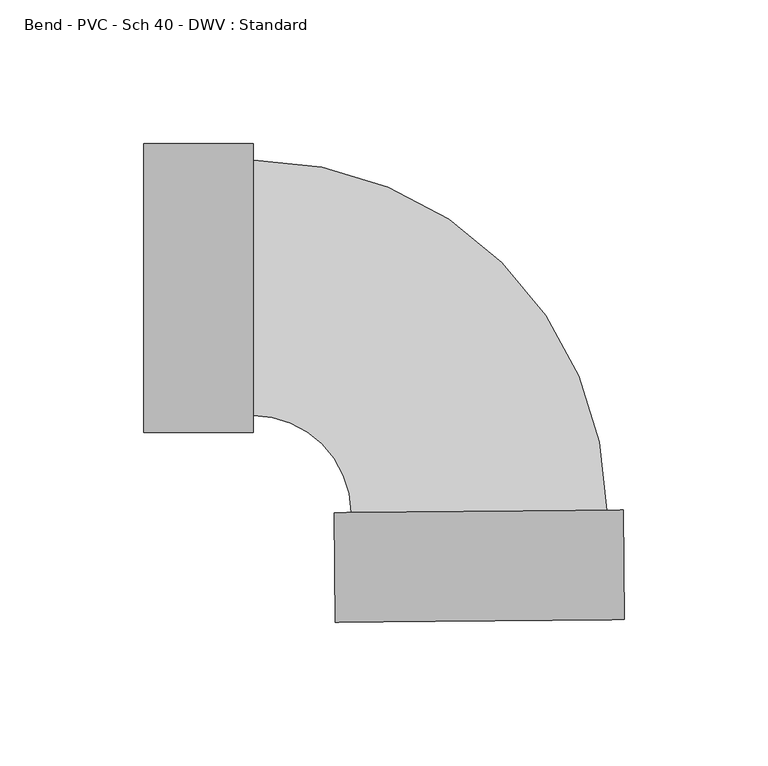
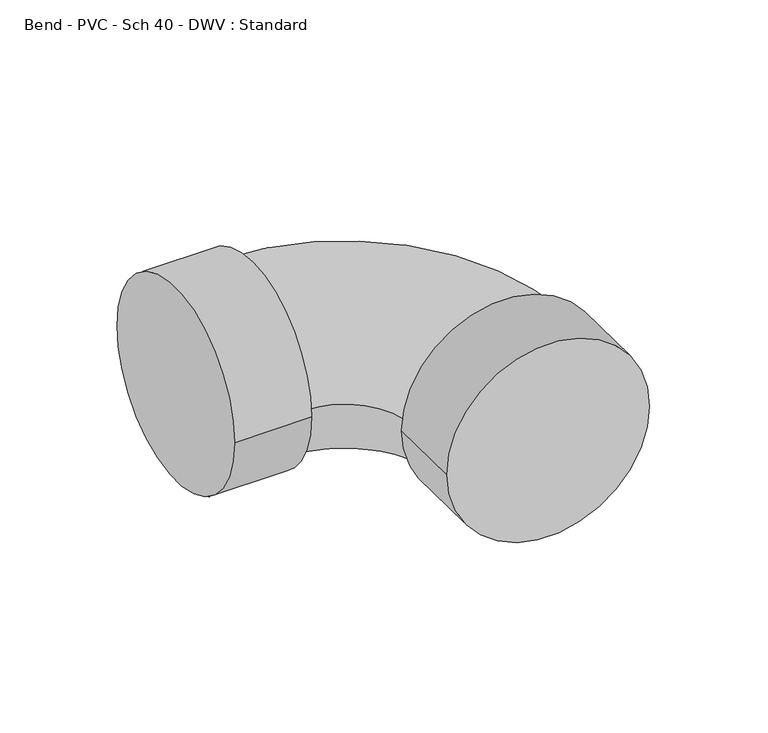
"""IFC4 building model written with IfcOpenShell, lengths in millimetres: pipe fitting geometry, Bend - PVC - Sch 40 - DWV : Standard."""

from ifc_helpers import new_model, si_unit, point, frame, origin, place, context, project, spatial, circle_curve, ellipse_curve, trimmed, source, transform, mapped, element, save
from ifc_brep_helpers import plane_surface, cylinder_surface, revolved_surface, advanced_brep


def bend_pvc_sch_40_dwv_standard_ddf7f1b2(model_context):
    return source(origin(), model_context, "Body", "AdvancedBrep", [
        advanced_brep(
        [(-115.9002, 50.2666, 0.0), (-115.9002, -50.2666, 0.0), (-77.8002, 50.2666, 0.0), (-77.8002, -50.2666, 0.0), (-77.8002, 44.45, 0.0), (-77.8002, -44.45, 0.0), (-43.7345164, -78.2046398, 0.0), (45.1617438, -77.3892145, 0.0), (50.9780991, -77.3358624, 0.0), (-49.5508717, -78.257992, 0.0), (51.3275671, -115.4342596, 0.0), (-49.2014037, -116.3563892, 0.0)],
        [
            (0, 1, circle_curve(frame((-115.9002, 0.0, 0.0), z_axis=(-1.0, 0.0, 0.0), x_axis=(0.0, -1.0, 0.0)), 50.2666)),
            (1, 0, circle_curve(frame((-115.9002, 0.0, 0.0), z_axis=(-1.0, 0.0, 0.0), x_axis=(0.0, -1.0, 0.0)), 50.2666)),
            (2, 3, circle_curve(frame((-77.8002, 0.0, 0.0), z_axis=(1.0, 0.0, 0.0), x_axis=(0.0, -1.0, 0.0)), 50.2666)),
            (3, 2, circle_curve(frame((-77.8002, 0.0, 0.0), z_axis=(1.0, 0.0, 0.0), x_axis=(0.0, -1.0, 0.0)), 50.2666)),
            (4, 5, circle_curve(frame((-77.8002, 0.0, 0.0), z_axis=(-1.0, 0.0, 0.0), x_axis=(0.0, -1.0, 0.0)), 44.45)),
            (5, 4, circle_curve(frame((-77.8002, 0.0, 0.0), z_axis=(-1.0, 0.0, 0.0), x_axis=(0.0, -1.0, 0.0)), 44.45)),
            (1, 3),
            (2, 0),
            (6, 7, circle_curve(frame((0.7136137, -77.7969272, 0.0), z_axis=(-0.009172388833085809, 0.9999579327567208, 0.0), x_axis=(-0.9999579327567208, -0.009172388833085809, 0.0)), 44.45)),
            (7, 4, circle_curve(frame((-77.8002, -78.5171167, 0.0), z_axis=(0.0, 0.0, 1.0), x_axis=(0.0, 1.0, 0.0)), 122.9671167)),
            (5, 6, circle_curve(frame((-77.8002, -78.5171167, 0.0), z_axis=(0.0, 0.0, -1.0), x_axis=(0.0, 1.0, 0.0)), 34.0671167)),
            (7, 6, circle_curve(frame((0.7136137, -77.7969272, 0.0), z_axis=(-0.009172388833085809, 0.9999579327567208, 0.0), x_axis=(-0.9999579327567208, -0.009172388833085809, 0.0)), 44.45)),
            (8, 9, circle_curve(frame((0.7136137, -77.7969272, 0.0), z_axis=(-0.009172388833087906, 0.999957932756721, 0.0), x_axis=(-0.999957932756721, -0.009172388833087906, 0.0)), 50.2666)),
            (9, 8, circle_curve(frame((0.7136137, -77.7969272, 0.0), z_axis=(-0.009172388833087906, 0.999957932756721, 0.0), x_axis=(-0.999957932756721, -0.009172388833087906, 0.0)), 50.2666)),
            (10, 11, circle_curve(frame((1.0630817, -115.8953244, 0.0), z_axis=(0.009172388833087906, -0.999957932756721, 0.0), x_axis=(-0.999957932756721, -0.009172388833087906, 0.0)), 50.2666)),
            (11, 10, circle_curve(frame((1.0630817, -115.8953244, 0.0), z_axis=(0.009172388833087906, -0.999957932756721, 0.0), x_axis=(-0.999957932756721, -0.009172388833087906, 0.0)), 50.2666)),
            (9, 11),
            (10, 8),
        ],
        [
            plane_surface(frame((-115.9002, 0.0, 0.0), z_axis=(-1.0, 0.0, 0.0), x_axis=(0.0, 0.0, 1.0))),
            plane_surface(frame((-77.8002, 0.0, 0.0), z_axis=(1.0, 0.0, 0.0), x_axis=(0.0, 0.0, 1.0))),
            cylinder_surface(frame((-115.9002, 0.0, 0.0), z_axis=(-1.0, 0.0, 0.0), x_axis=(0.0, -1.0, 0.0)), 50.2666),
            revolved_surface(trimmed(ellipse_curve(frame((-77.8002, 0.0, 0.0), z_axis=(1.0, 0.0, 0.0), x_axis=(0.0, -1.0, 0.0)), 44.45, 44.45), [point((-77.8002, 44.45, 0.0))], [point((-77.8002, -44.45, 0.0))], True, "CARTESIAN"), (-77.8002, -78.5171167, 0.0), (0.0, 0.0, 1.0)),
            revolved_surface(trimmed(ellipse_curve(frame((-77.8002, 0.0, 0.0), z_axis=(1.0, 0.0, 0.0), x_axis=(0.0, -1.0, 0.0)), 44.45, 44.45), [point((-77.8002, -44.45, 0.0))], [point((-77.8002, 44.45, 0.0))], True, "CARTESIAN"), (-77.8002, -78.5171167, 0.0), (0.0, 0.0, 1.0)),
            plane_surface(frame((0.7136137, -77.7969272, 0.0), z_axis=(-0.009172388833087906, 0.999957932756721, 0.0), x_axis=(0.0, 0.0, 1.0))),
            plane_surface(frame((1.0630817, -115.8953244, 0.0), z_axis=(0.009172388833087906, -0.999957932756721, 0.0), x_axis=(0.0, 0.0, 1.0))),
            cylinder_surface(frame((0.7136137, -77.7969272, 0.0), z_axis=(-0.009172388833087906, 0.999957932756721, 0.0), x_axis=(-0.999957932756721, -0.009172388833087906, 0.0)), 50.2666),
        ],
        [
            (0, [[1, 2]]),
            (1, [[3, 4], [5, 6]]),
            (2, [[7, -3, 8, -2]]),
            (2, [[-8, -4, -7, -1]]),
            (3, [[9, 10, -6, 11]]),
            (4, [[-5, -10, 12, -11]]),
            (5, [[13, 14], [-12, -9]]),
            (6, [[15, 16]]),
            (7, [[17, -15, 18, -14]]),
            (7, [[-18, -16, -17, -13]]),
        ],
    ),
    ])


if __name__ == "__main__":
    model = new_model("IFC4")
    model_context = context("Model", 3, world=origin())
    ifc_project = project(units=[si_unit("LENGTHUNIT", "METRE", prefix="MILLI")], contexts=[model_context])
    site = spatial("IfcSite", under=ifc_project)
    building = spatial("IfcBuilding", under=site)
    placement = place(None, origin())
    bend_pvc_sch_40_dwv_standard_shape = bend_pvc_sch_40_dwv_standard_ddf7f1b2(model_context)
    element("IfcPipeFitting", 1, ObjectType="Bend - PVC - Sch 40 - DWV : Standard", at=placement, inside=building, context=model_context, shape_type="MappedRepresentation", body=[
        mapped(bend_pvc_sch_40_dwv_standard_shape, transform((0.0, 0.0, 0.0), x_axis=(1.0, 0.0, 0.0), y_axis=(0.0, 1.0, 0.0), z_axis=(0.0, 0.0, 1.0))),
    ])
    save(model, "model.ifc")
